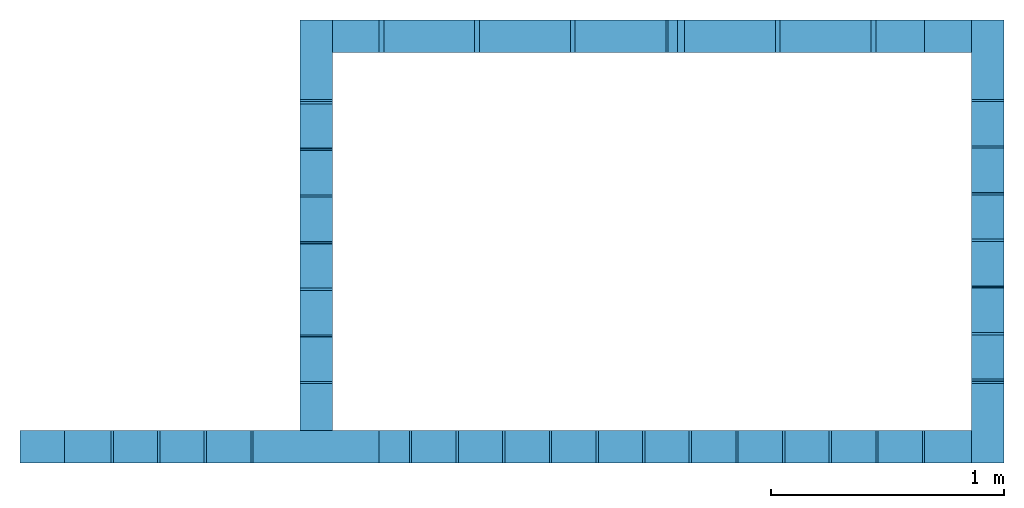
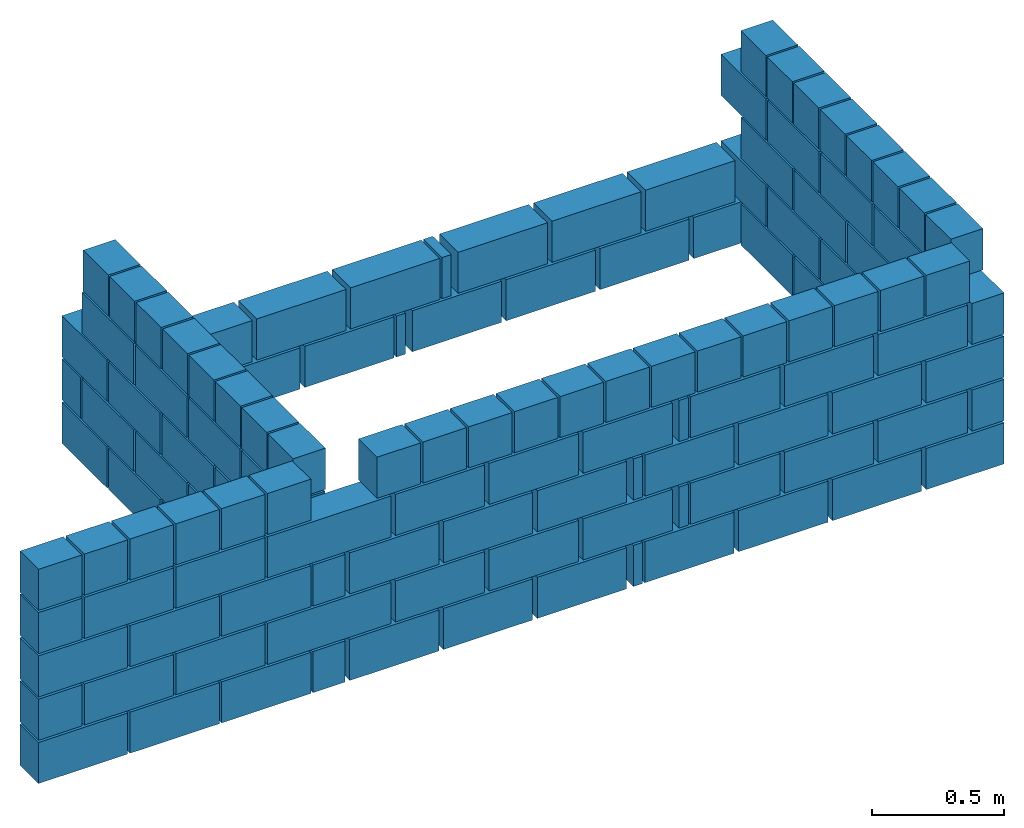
# One storey: 10 walls.
"""IFC4 building model written with IfcOpenShell, lengths in centimetres."""

from ifc_helpers import new_model, si_unit, derived_unit, frame, origin, origin_with_axes, origin_2d_with_axis, place, context, project, spatial, rectangle, extrude, element, save


model = new_model("IFC4")

# Units and contexts
model_context = context("Model", 3, precision=1e-05, world=origin_with_axes(), identifier="Body")
ifc_project = project(units=[si_unit("LENGTHUNIT", "METRE", prefix="CENTI"), si_unit("VOLUMEUNIT", "CUBIC_METRE"), si_unit("AREAUNIT", "SQUARE_METRE"), si_unit("POWERUNIT", "WATT"), si_unit("LUMINOUSFLUXUNIT", "LUMEN"), si_unit("ELECTRICCURRENTUNIT", "AMPERE"), si_unit("PRESSUREUNIT", "PASCAL", prefix="KILO"), si_unit("MASSUNIT", "GRAM", prefix="KILO"), si_unit("PLANEANGLEUNIT", "RADIAN"), derived_unit("VOLUMETRICFLOWRATEUNIT", [(si_unit("LENGTHUNIT", "METRE"), 3), (si_unit("TIMEUNIT", "SECOND"), -1)])], contexts=[model_context])

# Site, building, storey
site_placement = place(None, origin_with_axes())
site = spatial("IfcSite", under=ifc_project, at=site_placement)
building_placement = place(site_placement, origin())
building = spatial("IfcBuilding", under=site, at=building_placement)
placement_1 = place(building_placement, origin_with_axes())
placement_2 = place(placement_1, frame((0.0, 0.0, 272.0), z_axis=(0.0, 0.0, 1.0), x_axis=(1.0, 0.0, 0.0)))
placement_3 = place(placement_2, frame((0.0, 0.0, 100.0), z_axis=(0.0, 0.0, 1.0), x_axis=(1.0, 0.0, 0.0)))
storey_placement = place(placement_3, frame((0.0, 0.0, 60.0), z_axis=(0.0, 0.0, 1.0), x_axis=(1.0, 0.0, 0.0)))
storey = spatial("IfcBuildingStorey", under=building, at=storey_placement, Name="RESP2", CompositionType="ELEMENT", Elevation=432.0)

# Walls
wall_1_placement = place(storey_placement, frame((682.01, 391.01, 79.0), z_axis=(0.0, 0.0, 1.0), x_axis=(1.0, 0.0, 0.0)))
element("IfcWall", 1, at=wall_1_placement, inside=storey, context=model_context, shape_type="SolidModel", body=[
    extrude(rectangle(XDim=34.0, YDim=14.0, at=origin_2d_with_axis()), frame((0.0, -10.0, -79.0), z_axis=(0.0, 0.0, 1.0), x_axis=(-1.0, 0.0, 0.0)), (0.0, 0.0, 1.0), 19.0),
    extrude(rectangle(XDim=34.0, YDim=14.0, at=origin_2d_with_axis()), frame((10.0, 0.0, -59.0), z_axis=(0.0, 0.0, 1.0), x_axis=(0.0, 1.0, 0.0)), (0.0, 0.0, 1.0), 19.0),
    extrude(rectangle(XDim=34.0, YDim=14.0, at=origin_2d_with_axis()), frame((0.0, -10.0, -39.0), z_axis=(0.0, 0.0, 1.0), x_axis=(-1.0, 0.0, 0.0)), (0.0, 0.0, 1.0), 19.0),
    extrude(rectangle(XDim=34.0, YDim=14.0, at=origin_2d_with_axis()), frame((10.0, 0.0, -19.0), z_axis=(0.0, 0.0, 1.0), x_axis=(0.0, 1.0, 0.0)), (0.0, 0.0, 1.0), 19.0),
])
wall_2_placement = place(storey_placement, frame((296.5, 381.01, 79.0), z_axis=(0.0, 0.0, 1.0), x_axis=(1.0, 0.0, 0.0)))
element("IfcWall", 2, at=wall_2_placement, inside=storey, context=model_context, shape_type="SolidModel", body=[
    extrude(rectangle(XDim=39.0, YDim=14.0, at=origin_2d_with_axis()), frame((0.0, 0.0, -79.0), z_axis=(0.0, 0.0, 1.0), x_axis=(1.0, 0.0, 0.0)), (0.0, 0.0, 1.0), 19.0),
    extrude(rectangle(XDim=19.0, YDim=14.0, at=origin_2d_with_axis()), frame((-10.0, 0.0, -59.0), z_axis=(0.0, 0.0, 1.0), x_axis=(1.0, 0.0, 0.0)), (0.0, 0.0, 1.0), 19.0),
    extrude(rectangle(XDim=39.0, YDim=14.0, at=origin_2d_with_axis()), frame((0.0, 0.0, -39.0), z_axis=(0.0, 0.0, 1.0), x_axis=(1.0, 0.0, 0.0)), (0.0, 0.0, 1.0), 19.0),
    extrude(rectangle(XDim=19.0, YDim=14.0, at=origin_2d_with_axis()), frame((-10.0, 0.0, -19.0), z_axis=(0.0, 0.0, 1.0), x_axis=(1.0, 0.0, 0.0)), (0.0, 0.0, 1.0), 19.0),
])
wall_3_placement = place(storey_placement, frame((682.01, 547.01, 79.0), z_axis=(0.0, 0.0, 1.0), x_axis=(1.0, 0.0, 0.0)))
element("IfcWall", 3, at=wall_3_placement, inside=storey, context=model_context, shape_type="SolidModel", body=[
    extrude(rectangle(XDim=34.0, YDim=14.0, at=origin_2d_with_axis()), frame((0.0, 10.0, -79.0), z_axis=(0.0, 0.0, 1.0), x_axis=(-1.0, 0.0, 0.0)), (0.0, 0.0, 1.0), 19.0),
    extrude(rectangle(XDim=34.0, YDim=14.0, at=origin_2d_with_axis()), frame((10.0, 0.0, -59.0), z_axis=(0.0, 0.0, 1.0), x_axis=(0.0, -1.0, 0.0)), (0.0, 0.0, 1.0), 19.0),
    extrude(rectangle(XDim=34.0, YDim=14.0, at=origin_2d_with_axis()), frame((10.0, 0.0, -19.0), z_axis=(0.0, 0.0, 1.0), x_axis=(0.0, -1.0, 0.0)), (0.0, 0.0, 1.0), 19.0),
])
wall_4_placement = place(storey_placement, frame((404.01, 391.01, 79.0), z_axis=(0.0, 0.0, 1.0), x_axis=(1.0, 0.0, 0.0)))
element("IfcWall", 4, at=wall_4_placement, inside=storey, context=model_context, shape_type="SolidModel", body=[
    extrude(rectangle(XDim=34.0, YDim=14.0, at=origin_2d_with_axis()), frame((0.0, 0.0, -79.0), z_axis=(0.0, 0.0, 1.0), x_axis=(0.0, 1.0, 0.0)), (0.0, 0.0, 1.0), 19.0),
    extrude(rectangle(XDim=54.0, YDim=14.0, at=origin_2d_with_axis()), frame((0.0, -10.0, -59.0), z_axis=(0.0, 0.0, 1.0), x_axis=(-1.0, 0.0, 0.0)), (0.0, 0.0, 1.0), 19.0),
    extrude(rectangle(XDim=34.0, YDim=14.0, at=origin_2d_with_axis()), frame((0.0, 0.0, -39.0), z_axis=(0.0, 0.0, 1.0), x_axis=(0.0, 1.0, 0.0)), (0.0, 0.0, 1.0), 19.0),
    extrude(rectangle(XDim=54.0, YDim=14.0, at=origin_2d_with_axis()), frame((0.0, -10.0, -19.0), z_axis=(0.0, 0.0, 1.0), x_axis=(-1.0, 0.0, 0.0)), (0.0, 0.0, 1.0), 19.0),
])
wall_5_placement = place(storey_placement, frame((414.01, 547.01, 59.0), z_axis=(0.0, 0.0, 1.0), x_axis=(1.0, 0.0, 0.0)))
element("IfcWall", 5, at=wall_5_placement, inside=storey, context=model_context, shape_type="SolidModel", body=[
    extrude(rectangle(XDim=34.0, YDim=14.0, at=origin_2d_with_axis()), frame((-10.0, 0.0, -59.0), z_axis=(0.0, 0.0, 1.0), x_axis=(0.0, -1.0, 0.0)), (0.0, 0.0, 1.0), 19.0),
    extrude(rectangle(XDim=34.0, YDim=14.0, at=origin_2d_with_axis()), frame((0.0, 10.0, -39.0), z_axis=(0.0, 0.0, 1.0), x_axis=(1.0, 0.0, 0.0)), (0.0, 0.0, 1.0), 19.0),
    extrude(rectangle(XDim=34.0, YDim=14.0, at=origin_2d_with_axis()), frame((-10.0, 0.0, -19.0), z_axis=(0.0, 0.0, 1.0), x_axis=(0.0, -1.0, 0.0)), (0.0, 0.0, 1.0), 19.0),
])
wall_6_placement = place(storey_placement, frame((548.01, 557.01, 39.0), z_axis=(0.0, 0.0, 1.0), x_axis=(1.0, 0.0, 0.0)))
element("IfcWall", 6, at=wall_6_placement, inside=storey, Name="PAR-RESP2-1", context=model_context, shape_type="SolidModel", body=[
    extrude(rectangle(XDim=39.0, YDim=14.0, at=origin_2d_with_axis()), frame((-115.5, 0.0, -39.0), z_axis=(0.0, 0.0, 1.0), x_axis=(1.0, 0.0, 0.0)), (0.0, 0.0, 1.0), 19.0),
    extrude(rectangle(XDim=39.0, YDim=14.0, at=origin_2d_with_axis()), frame((-74.5, 0.0, -39.0), z_axis=(0.0, 0.0, 1.0), x_axis=(1.0, 0.0, 0.0)), (0.0, 0.0, 1.0), 19.0),
    extrude(rectangle(XDim=39.0, YDim=14.0, at=origin_2d_with_axis()), frame((-33.5, 0.0, -39.0), z_axis=(0.0, 0.0, 1.0), x_axis=(1.0, 0.0, 0.0)), (0.0, 0.0, 1.0), 19.0),
    extrude(rectangle(XDim=39.0, YDim=14.0, at=origin_2d_with_axis()), frame((13.5, 0.0, -39.0), z_axis=(0.0, 0.0, 1.0), x_axis=(1.0, 0.0, 0.0)), (0.0, 0.0, 1.0), 19.0),
    extrude(rectangle(XDim=39.0, YDim=14.0, at=origin_2d_with_axis()), frame((54.5, 0.0, -39.0), z_axis=(0.0, 0.0, 1.0), x_axis=(1.0, 0.0, 0.0)), (0.0, 0.0, 1.0), 19.0),
    extrude(rectangle(XDim=39.0, YDim=14.0, at=origin_2d_with_axis()), frame((95.5, 0.0, -39.0), z_axis=(0.0, 0.0, 1.0), x_axis=(1.0, 0.0, 0.0)), (0.0, 0.0, 1.0), 19.0),
    extrude(rectangle(XDim=4.0, YDim=14.0, at=origin_2d_with_axis()), frame((-11.0, 0.0, -39.0), z_axis=(0.0, 0.0, 1.0), x_axis=(1.0, 0.0, 0.0)), (0.0, 0.0, 1.0), 19.0),
    extrude(rectangle(XDim=39.0, YDim=14.0, at=origin_2d_with_axis()), frame((-95.5, 0.0, -19.0), z_axis=(0.0, 0.0, 1.0), x_axis=(1.0, 0.0, 0.0)), (0.0, 0.0, 1.0), 19.0),
    extrude(rectangle(XDim=39.0, YDim=14.0, at=origin_2d_with_axis()), frame((-54.5, 0.0, -19.0), z_axis=(0.0, 0.0, 1.0), x_axis=(1.0, 0.0, 0.0)), (0.0, 0.0, 1.0), 19.0),
    extrude(rectangle(XDim=39.0, YDim=14.0, at=origin_2d_with_axis()), frame((-13.5, 0.0, -19.0), z_axis=(0.0, 0.0, 1.0), x_axis=(1.0, 0.0, 0.0)), (0.0, 0.0, 1.0), 19.0),
    extrude(rectangle(XDim=39.0, YDim=14.0, at=origin_2d_with_axis()), frame((33.5, 0.0, -19.0), z_axis=(0.0, 0.0, 1.0), x_axis=(1.0, 0.0, 0.0)), (0.0, 0.0, 1.0), 19.0),
    extrude(rectangle(XDim=39.0, YDim=14.0, at=origin_2d_with_axis()), frame((74.5, 0.0, -19.0), z_axis=(0.0, 0.0, 1.0), x_axis=(1.0, 0.0, 0.0)), (0.0, 0.0, 1.0), 19.0),
    extrude(rectangle(XDim=39.0, YDim=14.0, at=origin_2d_with_axis()), frame((115.5, 0.0, -19.0), z_axis=(0.0, 0.0, 1.0), x_axis=(1.0, 0.0, 0.0)), (0.0, 0.0, 1.0), 19.0),
    extrude(rectangle(XDim=4.0, YDim=14.0, at=origin_2d_with_axis()), frame((9.0, 0.0, -19.0), z_axis=(0.0, 0.0, 1.0), x_axis=(1.0, 0.0, 0.0)), (0.0, 0.0, 1.0), 19.0),
])
wall_7_placement = place(storey_placement, frame((548.51, 381.01, 99.0), z_axis=(0.0, 0.0, 1.0), x_axis=(1.0, 0.0, 0.0)))
element("IfcWall", 7, at=wall_7_placement, inside=storey, Name="PAR-RESP2-2", context=model_context, shape_type="SolidModel", body=[
    extrude(rectangle(XDim=39.0, YDim=14.0, at=origin_2d_with_axis()), frame((95.0, 0.0, -99.0), z_axis=(0.0, 0.0, 1.0), x_axis=(-1.0, 0.0, 0.0)), (0.0, 0.0, 1.0), 19.0),
    extrude(rectangle(XDim=39.0, YDim=14.0, at=origin_2d_with_axis()), frame((54.0, 0.0, -99.0), z_axis=(0.0, 0.0, 1.0), x_axis=(-1.0, 0.0, 0.0)), (0.0, 0.0, 1.0), 19.0),
    extrude(rectangle(XDim=39.0, YDim=14.0, at=origin_2d_with_axis()), frame((13.0, 0.0, -99.0), z_axis=(0.0, 0.0, 1.0), x_axis=(-1.0, 0.0, 0.0)), (0.0, 0.0, 1.0), 19.0),
    extrude(rectangle(XDim=39.0, YDim=14.0, at=origin_2d_with_axis()), frame((-34.0, 0.0, -99.0), z_axis=(0.0, 0.0, 1.0), x_axis=(-1.0, 0.0, 0.0)), (0.0, 0.0, 1.0), 19.0),
    extrude(rectangle(XDim=39.0, YDim=14.0, at=origin_2d_with_axis()), frame((-75.0, 0.0, -99.0), z_axis=(0.0, 0.0, 1.0), x_axis=(-1.0, 0.0, 0.0)), (0.0, 0.0, 1.0), 19.0),
    extrude(rectangle(XDim=39.0, YDim=14.0, at=origin_2d_with_axis()), frame((-116.0, 0.0, -99.0), z_axis=(0.0, 0.0, 1.0), x_axis=(-1.0, 0.0, 0.0)), (0.0, 0.0, 1.0), 19.0),
    extrude(rectangle(XDim=4.0, YDim=14.0, at=origin_2d_with_axis()), frame((-9.5, 0.0, -99.0), z_axis=(0.0, 0.0, 1.0), x_axis=(-1.0, 0.0, 0.0)), (0.0, 0.0, 1.0), 19.0),
    extrude(rectangle(XDim=39.0, YDim=14.0, at=origin_2d_with_axis()), frame((115.0, 0.0, -79.0), z_axis=(0.0, 0.0, 1.0), x_axis=(-1.0, 0.0, 0.0)), (0.0, 0.0, 1.0), 19.0),
    extrude(rectangle(XDim=39.0, YDim=14.0, at=origin_2d_with_axis()), frame((74.0, 0.0, -79.0), z_axis=(0.0, 0.0, 1.0), x_axis=(-1.0, 0.0, 0.0)), (0.0, 0.0, 1.0), 19.0),
    extrude(rectangle(XDim=39.0, YDim=14.0, at=origin_2d_with_axis()), frame((33.0, 0.0, -79.0), z_axis=(0.0, 0.0, 1.0), x_axis=(-1.0, 0.0, 0.0)), (0.0, 0.0, 1.0), 19.0),
    extrude(rectangle(XDim=39.0, YDim=14.0, at=origin_2d_with_axis()), frame((-14.0, 0.0, -79.0), z_axis=(0.0, 0.0, 1.0), x_axis=(-1.0, 0.0, 0.0)), (0.0, 0.0, 1.0), 19.0),
    extrude(rectangle(XDim=39.0, YDim=14.0, at=origin_2d_with_axis()), frame((-55.0, 0.0, -79.0), z_axis=(0.0, 0.0, 1.0), x_axis=(-1.0, 0.0, 0.0)), (0.0, 0.0, 1.0), 19.0),
    extrude(rectangle(XDim=39.0, YDim=14.0, at=origin_2d_with_axis()), frame((-96.0, 0.0, -79.0), z_axis=(0.0, 0.0, 1.0), x_axis=(-1.0, 0.0, 0.0)), (0.0, 0.0, 1.0), 19.0),
    extrude(rectangle(XDim=4.0, YDim=14.0, at=origin_2d_with_axis()), frame((10.5, 0.0, -79.0), z_axis=(0.0, 0.0, 1.0), x_axis=(-1.0, 0.0, 0.0)), (0.0, 0.0, 1.0), 19.0),
    extrude(rectangle(XDim=39.0, YDim=14.0, at=origin_2d_with_axis()), frame((95.0, 0.0, -59.0), z_axis=(0.0, 0.0, 1.0), x_axis=(-1.0, 0.0, 0.0)), (0.0, 0.0, 1.0), 19.0),
    extrude(rectangle(XDim=39.0, YDim=14.0, at=origin_2d_with_axis()), frame((54.0, 0.0, -59.0), z_axis=(0.0, 0.0, 1.0), x_axis=(-1.0, 0.0, 0.0)), (0.0, 0.0, 1.0), 19.0),
    extrude(rectangle(XDim=39.0, YDim=14.0, at=origin_2d_with_axis()), frame((13.0, 0.0, -59.0), z_axis=(0.0, 0.0, 1.0), x_axis=(-1.0, 0.0, 0.0)), (0.0, 0.0, 1.0), 19.0),
    extrude(rectangle(XDim=39.0, YDim=14.0, at=origin_2d_with_axis()), frame((-34.0, 0.0, -59.0), z_axis=(0.0, 0.0, 1.0), x_axis=(-1.0, 0.0, 0.0)), (0.0, 0.0, 1.0), 19.0),
    extrude(rectangle(XDim=39.0, YDim=14.0, at=origin_2d_with_axis()), frame((-75.0, 0.0, -59.0), z_axis=(0.0, 0.0, 1.0), x_axis=(-1.0, 0.0, 0.0)), (0.0, 0.0, 1.0), 19.0),
    extrude(rectangle(XDim=39.0, YDim=14.0, at=origin_2d_with_axis()), frame((-116.0, 0.0, -59.0), z_axis=(0.0, 0.0, 1.0), x_axis=(-1.0, 0.0, 0.0)), (0.0, 0.0, 1.0), 19.0),
    extrude(rectangle(XDim=4.0, YDim=14.0, at=origin_2d_with_axis()), frame((-9.5, 0.0, -59.0), z_axis=(0.0, 0.0, 1.0), x_axis=(-1.0, 0.0, 0.0)), (0.0, 0.0, 1.0), 19.0),
    extrude(rectangle(XDim=39.0, YDim=14.0, at=origin_2d_with_axis()), frame((115.0, 0.0, -39.0), z_axis=(0.0, 0.0, 1.0), x_axis=(-1.0, 0.0, 0.0)), (0.0, 0.0, 1.0), 19.0),
    extrude(rectangle(XDim=39.0, YDim=14.0, at=origin_2d_with_axis()), frame((74.0, 0.0, -39.0), z_axis=(0.0, 0.0, 1.0), x_axis=(-1.0, 0.0, 0.0)), (0.0, 0.0, 1.0), 19.0),
    extrude(rectangle(XDim=39.0, YDim=14.0, at=origin_2d_with_axis()), frame((33.0, 0.0, -39.0), z_axis=(0.0, 0.0, 1.0), x_axis=(-1.0, 0.0, 0.0)), (0.0, 0.0, 1.0), 19.0),
    extrude(rectangle(XDim=39.0, YDim=14.0, at=origin_2d_with_axis()), frame((-14.0, 0.0, -39.0), z_axis=(0.0, 0.0, 1.0), x_axis=(-1.0, 0.0, 0.0)), (0.0, 0.0, 1.0), 19.0),
    extrude(rectangle(XDim=39.0, YDim=14.0, at=origin_2d_with_axis()), frame((-55.0, 0.0, -39.0), z_axis=(0.0, 0.0, 1.0), x_axis=(-1.0, 0.0, 0.0)), (0.0, 0.0, 1.0), 19.0),
    extrude(rectangle(XDim=39.0, YDim=14.0, at=origin_2d_with_axis()), frame((-96.0, 0.0, -39.0), z_axis=(0.0, 0.0, 1.0), x_axis=(-1.0, 0.0, 0.0)), (0.0, 0.0, 1.0), 19.0),
    extrude(rectangle(XDim=4.0, YDim=14.0, at=origin_2d_with_axis()), frame((10.5, 0.0, -39.0), z_axis=(0.0, 0.0, 1.0), x_axis=(-1.0, 0.0, 0.0)), (0.0, 0.0, 1.0), 19.0),
    extrude(rectangle(XDim=19.0, YDim=14.0, at=origin_2d_with_axis()), frame((126.0, 0.0, -19.0), z_axis=(0.0, 0.0, 1.0), x_axis=(-1.0, 0.0, 0.0)), (0.0, 0.0, 1.0), 19.0),
    extrude(rectangle(XDim=19.0, YDim=14.0, at=origin_2d_with_axis()), frame((106.0, 0.0, -19.0), z_axis=(0.0, 0.0, 1.0), x_axis=(-1.0, 0.0, 0.0)), (0.0, 0.0, 1.0), 19.0),
    extrude(rectangle(XDim=19.0, YDim=14.0, at=origin_2d_with_axis()), frame((86.0, 0.0, -19.0), z_axis=(0.0, 0.0, 1.0), x_axis=(-1.0, 0.0, 0.0)), (0.0, 0.0, 1.0), 19.0),
    extrude(rectangle(XDim=19.0, YDim=14.0, at=origin_2d_with_axis()), frame((66.0, 0.0, -19.0), z_axis=(0.0, 0.0, 1.0), x_axis=(-1.0, 0.0, 0.0)), (0.0, 0.0, 1.0), 19.0),
    extrude(rectangle(XDim=19.0, YDim=14.0, at=origin_2d_with_axis()), frame((46.0, 0.0, -19.0), z_axis=(0.0, 0.0, 1.0), x_axis=(-1.0, 0.0, 0.0)), (0.0, 0.0, 1.0), 19.0),
    extrude(rectangle(XDim=19.0, YDim=14.0, at=origin_2d_with_axis()), frame((26.0, 0.0, -19.0), z_axis=(0.0, 0.0, 1.0), x_axis=(-1.0, 0.0, 0.0)), (0.0, 0.0, 1.0), 19.0),
    extrude(rectangle(XDim=19.0, YDim=14.0, at=origin_2d_with_axis()), frame((6.0, 0.0, -19.0), z_axis=(0.0, 0.0, 1.0), x_axis=(-1.0, 0.0, 0.0)), (0.0, 0.0, 1.0), 19.0),
    extrude(rectangle(XDim=19.0, YDim=14.0, at=origin_2d_with_axis()), frame((-14.0, 0.0, -19.0), z_axis=(0.0, 0.0, 1.0), x_axis=(-1.0, 0.0, 0.0)), (0.0, 0.0, 1.0), 19.0),
    extrude(rectangle(XDim=19.0, YDim=14.0, at=origin_2d_with_axis()), frame((-34.0, 0.0, -19.0), z_axis=(0.0, 0.0, 1.0), x_axis=(-1.0, 0.0, 0.0)), (0.0, 0.0, 1.0), 19.0),
    extrude(rectangle(XDim=19.0, YDim=14.0, at=origin_2d_with_axis()), frame((-54.0, 0.0, -19.0), z_axis=(0.0, 0.0, 1.0), x_axis=(-1.0, 0.0, 0.0)), (0.0, 0.0, 1.0), 19.0),
    extrude(rectangle(XDim=19.0, YDim=14.0, at=origin_2d_with_axis()), frame((-74.0, 0.0, -19.0), z_axis=(0.0, 0.0, 1.0), x_axis=(-1.0, 0.0, 0.0)), (0.0, 0.0, 1.0), 19.0),
    extrude(rectangle(XDim=19.0, YDim=14.0, at=origin_2d_with_axis()), frame((-94.0, 0.0, -19.0), z_axis=(0.0, 0.0, 1.0), x_axis=(-1.0, 0.0, 0.0)), (0.0, 0.0, 1.0), 19.0),
    extrude(rectangle(XDim=19.0, YDim=14.0, at=origin_2d_with_axis()), frame((-114.0, 0.0, -19.0), z_axis=(0.0, 0.0, 1.0), x_axis=(-1.0, 0.0, 0.0)), (0.0, 0.0, 1.0), 19.0),
])
wall_8_placement = place(storey_placement, frame((336.51, 381.01, 99.0), z_axis=(0.0, 0.0, 1.0), x_axis=(1.0, 0.0, 0.0)))
element("IfcWall", 8, at=wall_8_placement, inside=storey, Name="PAR-RESP2-2", context=model_context, shape_type="SolidModel", body=[
    extrude(rectangle(XDim=39.0, YDim=14.0, at=origin_2d_with_axis()), frame((40.0, 0.0, -99.0), z_axis=(0.0, 0.0, 1.0), x_axis=(-1.0, 0.0, 0.0)), (0.0, 0.0, 1.0), 19.0),
    extrude(rectangle(XDim=39.0, YDim=14.0, at=origin_2d_with_axis()), frame((0.0, 0.0, -99.0), z_axis=(0.0, 0.0, 1.0), x_axis=(-1.0, 0.0, 0.0)), (0.0, 0.0, 1.0), 19.0),
    extrude(rectangle(XDim=39.0, YDim=14.0, at=origin_2d_with_axis()), frame((20.0, 0.0, -79.0), z_axis=(0.0, 0.0, 1.0), x_axis=(-1.0, 0.0, 0.0)), (0.0, 0.0, 1.0), 19.0),
    extrude(rectangle(XDim=39.0, YDim=14.0, at=origin_2d_with_axis()), frame((-20.0, 0.0, -79.0), z_axis=(0.0, 0.0, 1.0), x_axis=(-1.0, 0.0, 0.0)), (0.0, 0.0, 1.0), 19.0),
    extrude(rectangle(XDim=39.0, YDim=14.0, at=origin_2d_with_axis()), frame((40.0, 0.0, -59.0), z_axis=(0.0, 0.0, 1.0), x_axis=(-1.0, 0.0, 0.0)), (0.0, 0.0, 1.0), 19.0),
    extrude(rectangle(XDim=39.0, YDim=14.0, at=origin_2d_with_axis()), frame((0.0, 0.0, -59.0), z_axis=(0.0, 0.0, 1.0), x_axis=(-1.0, 0.0, 0.0)), (0.0, 0.0, 1.0), 19.0),
    extrude(rectangle(XDim=39.0, YDim=14.0, at=origin_2d_with_axis()), frame((20.0, 0.0, -39.0), z_axis=(0.0, 0.0, 1.0), x_axis=(-1.0, 0.0, 0.0)), (0.0, 0.0, 1.0), 19.0),
    extrude(rectangle(XDim=39.0, YDim=14.0, at=origin_2d_with_axis()), frame((-20.0, 0.0, -39.0), z_axis=(0.0, 0.0, 1.0), x_axis=(-1.0, 0.0, 0.0)), (0.0, 0.0, 1.0), 19.0),
    extrude(rectangle(XDim=19.0, YDim=14.0, at=origin_2d_with_axis()), frame((50.0, 0.0, -19.0), z_axis=(0.0, 0.0, 1.0), x_axis=(-1.0, 0.0, 0.0)), (0.0, 0.0, 1.0), 19.0),
    extrude(rectangle(XDim=19.0, YDim=14.0, at=origin_2d_with_axis()), frame((30.0, 0.0, -19.0), z_axis=(0.0, 0.0, 1.0), x_axis=(-1.0, 0.0, 0.0)), (0.0, 0.0, 1.0), 19.0),
    extrude(rectangle(XDim=19.0, YDim=14.0, at=origin_2d_with_axis()), frame((10.0, 0.0, -19.0), z_axis=(0.0, 0.0, 1.0), x_axis=(-1.0, 0.0, 0.0)), (0.0, 0.0, 1.0), 19.0),
    extrude(rectangle(XDim=19.0, YDim=14.0, at=origin_2d_with_axis()), frame((-10.0, 0.0, -19.0), z_axis=(0.0, 0.0, 1.0), x_axis=(-1.0, 0.0, 0.0)), (0.0, 0.0, 1.0), 19.0),
    extrude(rectangle(XDim=19.0, YDim=14.0, at=origin_2d_with_axis()), frame((-30.0, 0.0, -19.0), z_axis=(0.0, 0.0, 1.0), x_axis=(-1.0, 0.0, 0.0)), (0.0, 0.0, 1.0), 19.0),
    extrude(rectangle(XDim=19.0, YDim=14.0, at=origin_2d_with_axis()), frame((-50.0, 0.0, -19.0), z_axis=(0.0, 0.0, 1.0), x_axis=(-1.0, 0.0, 0.0)), (0.0, 0.0, 1.0), 19.0),
])
wall_9_placement = place(storey_placement, frame((404.01, 468.91, 99.0), z_axis=(0.0, 0.0, 1.0), x_axis=(1.0, 0.0, 0.0)))
element("IfcWall", 9, at=wall_9_placement, inside=storey, Name="PAR-RESP2-3", context=model_context, shape_type="SolidModel", body=[
    extrude(rectangle(XDim=39.0, YDim=14.0, at=origin_2d_with_axis()), frame((0.0, -40.15, -99.0), z_axis=(0.0, 0.0, 1.0), x_axis=(0.0, 1.0, 0.0)), (0.0, 0.0, 1.0), 19.0),
    extrude(rectangle(XDim=39.0, YDim=14.0, at=origin_2d_with_axis()), frame((0.0, 0.1, -99.0), z_axis=(0.0, 0.0, 1.0), x_axis=(0.0, 1.0, 0.0)), (0.0, 0.0, 1.0), 19.0),
    extrude(rectangle(XDim=39.0, YDim=14.0, at=origin_2d_with_axis()), frame((0.0, 40.35, -99.0), z_axis=(0.0, 0.0, 1.0), x_axis=(0.0, 1.0, 0.0)), (0.0, 0.0, 1.0), 19.0),
    extrude(rectangle(XDim=39.0, YDim=14.0, at=origin_2d_with_axis()), frame((0.0, -60.2, -79.0), z_axis=(0.0, 0.0, 1.0), x_axis=(0.0, 1.0, 0.0)), (0.0, 0.0, 1.0), 19.0),
    extrude(rectangle(XDim=39.0, YDim=14.0, at=origin_2d_with_axis()), frame((0.0, -20.0, -79.0), z_axis=(0.0, 0.0, 1.0), x_axis=(0.0, 1.0, 0.0)), (0.0, 0.0, 1.0), 19.0),
    extrude(rectangle(XDim=39.0, YDim=14.0, at=origin_2d_with_axis()), frame((0.0, 20.2, -79.0), z_axis=(0.0, 0.0, 1.0), x_axis=(0.0, 1.0, 0.0)), (0.0, 0.0, 1.0), 19.0),
    extrude(rectangle(XDim=39.0, YDim=14.0, at=origin_2d_with_axis()), frame((0.0, 60.4, -79.0), z_axis=(0.0, 0.0, 1.0), x_axis=(0.0, 1.0, 0.0)), (0.0, 0.0, 1.0), 19.0),
    extrude(rectangle(XDim=39.0, YDim=14.0, at=origin_2d_with_axis()), frame((0.0, -40.15, -59.0), z_axis=(0.0, 0.0, 1.0), x_axis=(0.0, 1.0, 0.0)), (0.0, 0.0, 1.0), 19.0),
    extrude(rectangle(XDim=39.0, YDim=14.0, at=origin_2d_with_axis()), frame((0.0, 0.1, -59.0), z_axis=(0.0, 0.0, 1.0), x_axis=(0.0, 1.0, 0.0)), (0.0, 0.0, 1.0), 19.0),
    extrude(rectangle(XDim=39.0, YDim=14.0, at=origin_2d_with_axis()), frame((0.0, 40.35, -59.0), z_axis=(0.0, 0.0, 1.0), x_axis=(0.0, 1.0, 0.0)), (0.0, 0.0, 1.0), 19.0),
    extrude(rectangle(XDim=39.0, YDim=14.0, at=origin_2d_with_axis()), frame((0.0, -60.2, -39.0), z_axis=(0.0, 0.0, 1.0), x_axis=(0.0, 1.0, 0.0)), (0.0, 0.0, 1.0), 19.0),
    extrude(rectangle(XDim=39.0, YDim=14.0, at=origin_2d_with_axis()), frame((0.0, -20.0, -39.0), z_axis=(0.0, 0.0, 1.0), x_axis=(0.0, 1.0, 0.0)), (0.0, 0.0, 1.0), 19.0),
    extrude(rectangle(XDim=39.0, YDim=14.0, at=origin_2d_with_axis()), frame((0.0, 20.2, -39.0), z_axis=(0.0, 0.0, 1.0), x_axis=(0.0, 1.0, 0.0)), (0.0, 0.0, 1.0), 19.0),
    extrude(rectangle(XDim=39.0, YDim=14.0, at=origin_2d_with_axis()), frame((0.0, 60.4, -39.0), z_axis=(0.0, 0.0, 1.0), x_axis=(0.0, 1.0, 0.0)), (0.0, 0.0, 1.0), 19.0),
    extrude(rectangle(XDim=19.0, YDim=14.0, at=origin_2d_with_axis()), frame((0.0, -70.4, -19.0), z_axis=(0.0, 0.0, 1.0), x_axis=(0.0, 1.0, 0.0)), (0.0, 0.0, 1.0), 19.0),
    extrude(rectangle(XDim=19.0, YDim=14.0, at=origin_2d_with_axis()), frame((0.0, -50.4, -19.0), z_axis=(0.0, 0.0, 1.0), x_axis=(0.0, 1.0, 0.0)), (0.0, 0.0, 1.0), 19.0),
    extrude(rectangle(XDim=19.0, YDim=14.0, at=origin_2d_with_axis()), frame((0.0, -30.4, -19.0), z_axis=(0.0, 0.0, 1.0), x_axis=(0.0, 1.0, 0.0)), (0.0, 0.0, 1.0), 19.0),
    extrude(rectangle(XDim=19.0, YDim=14.0, at=origin_2d_with_axis()), frame((0.0, -10.4, -19.0), z_axis=(0.0, 0.0, 1.0), x_axis=(0.0, 1.0, 0.0)), (0.0, 0.0, 1.0), 19.0),
    extrude(rectangle(XDim=19.0, YDim=14.0, at=origin_2d_with_axis()), frame((0.0, 9.6, -19.0), z_axis=(0.0, 0.0, 1.0), x_axis=(0.0, 1.0, 0.0)), (0.0, 0.0, 1.0), 19.0),
    extrude(rectangle(XDim=19.0, YDim=14.0, at=origin_2d_with_axis()), frame((0.0, 29.6, -19.0), z_axis=(0.0, 0.0, 1.0), x_axis=(0.0, 1.0, 0.0)), (0.0, 0.0, 1.0), 19.0),
    extrude(rectangle(XDim=19.0, YDim=14.0, at=origin_2d_with_axis()), frame((0.0, 49.6, -19.0), z_axis=(0.0, 0.0, 1.0), x_axis=(0.0, 1.0, 0.0)), (0.0, 0.0, 1.0), 19.0),
    extrude(rectangle(XDim=19.0, YDim=14.0, at=origin_2d_with_axis()), frame((0.0, 69.6, -19.0), z_axis=(0.0, 0.0, 1.0), x_axis=(0.0, 1.0, 0.0)), (0.0, 0.0, 1.0), 19.0),
])
wall_10_placement = place(storey_placement, frame((692.01, 469.11, 99.0), z_axis=(0.0, 0.0, 1.0), x_axis=(1.0, 0.0, 0.0)))
element("IfcWall", 10, at=wall_10_placement, inside=storey, Name="PAR-RESP2-4", context=model_context, shape_type="SolidModel", body=[
    extrude(rectangle(XDim=39.0, YDim=14.0, at=origin_2d_with_axis()), frame((0.0, 60.2, -99.0), z_axis=(0.0, 0.0, 1.0), x_axis=(0.0, -1.0, 0.0)), (0.0, 0.0, 1.0), 19.0),
    extrude(rectangle(XDim=39.0, YDim=14.0, at=origin_2d_with_axis()), frame((0.0, 20.0, -99.0), z_axis=(0.0, 0.0, 1.0), x_axis=(0.0, -1.0, 0.0)), (0.0, 0.0, 1.0), 19.0),
    extrude(rectangle(XDim=39.0, YDim=14.0, at=origin_2d_with_axis()), frame((0.0, -20.2, -99.0), z_axis=(0.0, 0.0, 1.0), x_axis=(0.0, -1.0, 0.0)), (0.0, 0.0, 1.0), 19.0),
    extrude(rectangle(XDim=39.0, YDim=14.0, at=origin_2d_with_axis()), frame((0.0, -60.4, -99.0), z_axis=(0.0, 0.0, 1.0), x_axis=(0.0, -1.0, 0.0)), (0.0, 0.0, 1.0), 19.0),
    extrude(rectangle(XDim=39.0, YDim=14.0, at=origin_2d_with_axis()), frame((0.0, 40.15, -79.0), z_axis=(0.0, 0.0, 1.0), x_axis=(0.0, -1.0, 0.0)), (0.0, 0.0, 1.0), 19.0),
    extrude(rectangle(XDim=39.0, YDim=14.0, at=origin_2d_with_axis()), frame((0.0, -0.1, -79.0), z_axis=(0.0, 0.0, 1.0), x_axis=(0.0, -1.0, 0.0)), (0.0, 0.0, 1.0), 19.0),
    extrude(rectangle(XDim=39.0, YDim=14.0, at=origin_2d_with_axis()), frame((0.0, -40.35, -79.0), z_axis=(0.0, 0.0, 1.0), x_axis=(0.0, -1.0, 0.0)), (0.0, 0.0, 1.0), 19.0),
    extrude(rectangle(XDim=39.0, YDim=14.0, at=origin_2d_with_axis()), frame((0.0, 60.2, -59.0), z_axis=(0.0, 0.0, 1.0), x_axis=(0.0, -1.0, 0.0)), (0.0, 0.0, 1.0), 19.0),
    extrude(rectangle(XDim=39.0, YDim=14.0, at=origin_2d_with_axis()), frame((0.0, 20.0, -59.0), z_axis=(0.0, 0.0, 1.0), x_axis=(0.0, -1.0, 0.0)), (0.0, 0.0, 1.0), 19.0),
    extrude(rectangle(XDim=39.0, YDim=14.0, at=origin_2d_with_axis()), frame((0.0, -20.2, -59.0), z_axis=(0.0, 0.0, 1.0), x_axis=(0.0, -1.0, 0.0)), (0.0, 0.0, 1.0), 19.0),
    extrude(rectangle(XDim=39.0, YDim=14.0, at=origin_2d_with_axis()), frame((0.0, -60.4, -59.0), z_axis=(0.0, 0.0, 1.0), x_axis=(0.0, -1.0, 0.0)), (0.0, 0.0, 1.0), 19.0),
    extrude(rectangle(XDim=39.0, YDim=14.0, at=origin_2d_with_axis()), frame((0.0, 40.15, -39.0), z_axis=(0.0, 0.0, 1.0), x_axis=(0.0, -1.0, 0.0)), (0.0, 0.0, 1.0), 19.0),
    extrude(rectangle(XDim=39.0, YDim=14.0, at=origin_2d_with_axis()), frame((0.0, -0.1, -39.0), z_axis=(0.0, 0.0, 1.0), x_axis=(0.0, -1.0, 0.0)), (0.0, 0.0, 1.0), 19.0),
    extrude(rectangle(XDim=39.0, YDim=14.0, at=origin_2d_with_axis()), frame((0.0, -40.35, -39.0), z_axis=(0.0, 0.0, 1.0), x_axis=(0.0, -1.0, 0.0)), (0.0, 0.0, 1.0), 19.0),
    extrude(rectangle(XDim=19.0, YDim=14.0, at=origin_2d_with_axis()), frame((0.0, 70.4, -19.0), z_axis=(0.0, 0.0, 1.0), x_axis=(0.0, -1.0, 0.0)), (0.0, 0.0, 1.0), 19.0),
    extrude(rectangle(XDim=19.0, YDim=14.0, at=origin_2d_with_axis()), frame((0.0, 50.4, -19.0), z_axis=(0.0, 0.0, 1.0), x_axis=(0.0, -1.0, 0.0)), (0.0, 0.0, 1.0), 19.0),
    extrude(rectangle(XDim=19.0, YDim=14.0, at=origin_2d_with_axis()), frame((0.0, 30.4, -19.0), z_axis=(0.0, 0.0, 1.0), x_axis=(0.0, -1.0, 0.0)), (0.0, 0.0, 1.0), 19.0),
    extrude(rectangle(XDim=19.0, YDim=14.0, at=origin_2d_with_axis()), frame((0.0, 10.4, -19.0), z_axis=(0.0, 0.0, 1.0), x_axis=(0.0, -1.0, 0.0)), (0.0, 0.0, 1.0), 19.0),
    extrude(rectangle(XDim=19.0, YDim=14.0, at=origin_2d_with_axis()), frame((0.0, -9.6, -19.0), z_axis=(0.0, 0.0, 1.0), x_axis=(0.0, -1.0, 0.0)), (0.0, 0.0, 1.0), 19.0),
    extrude(rectangle(XDim=19.0, YDim=14.0, at=origin_2d_with_axis()), frame((0.0, -29.6, -19.0), z_axis=(0.0, 0.0, 1.0), x_axis=(0.0, -1.0, 0.0)), (0.0, 0.0, 1.0), 19.0),
    extrude(rectangle(XDim=19.0, YDim=14.0, at=origin_2d_with_axis()), frame((0.0, -49.6, -19.0), z_axis=(0.0, 0.0, 1.0), x_axis=(0.0, -1.0, 0.0)), (0.0, 0.0, 1.0), 19.0),
    extrude(rectangle(XDim=19.0, YDim=14.0, at=origin_2d_with_axis()), frame((0.0, -69.6, -19.0), z_axis=(0.0, 0.0, 1.0), x_axis=(0.0, -1.0, 0.0)), (0.0, 0.0, 1.0), 19.0),
])

save(model, "model.ifc")
